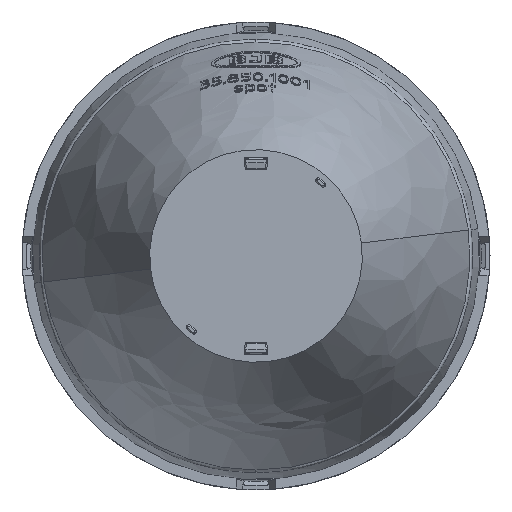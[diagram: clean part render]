
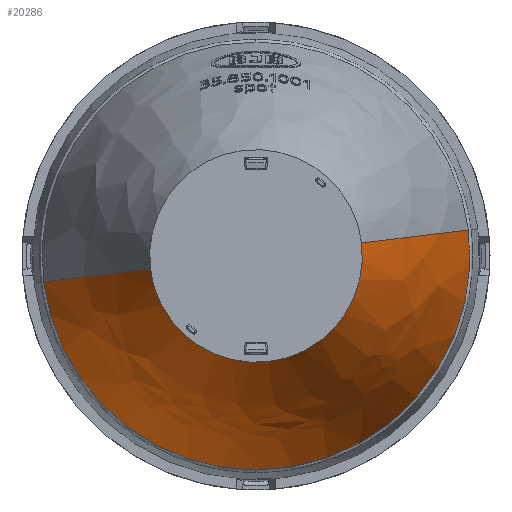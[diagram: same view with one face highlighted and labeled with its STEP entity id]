
A CAD part, front view. The second image highlights one B-rep face of the part: STEP entity #20286.
In plain terms, the highlighted free-form (B-spline) face has degree [3, 8] with [4, 15] control points.
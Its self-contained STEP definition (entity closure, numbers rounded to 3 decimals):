
#12536=CARTESIAN_POINT(' ',(0.,67.086,-50.299));
#12537=VERTEX_POINT(' ',#12536);
#12626=CARTESIAN_POINT(' ',(49.926,67.087,6.13));
#12627=VERTEX_POINT(' ',#12626);
#12641=CARTESIAN_POINT(' ',(-0.003,67.09,0.004));
#12646=DIRECTION(' ',(0.,1.,0.));
#12651=DIRECTION(' ',(0.993,0.,0.122));
#12656=AXIS2_PLACEMENT_3D(' ',#12641,#12646,#12651);
#12661=CIRCLE('',#12656,50.303);
#12666=EDGE_CURVE(' ',#12627,#12537,#12661,.T.);
#13396=CARTESIAN_POINT(' ',(-0.001,67.087,0.001));
#13401=DIRECTION(' ',(0.,1.,0.));
#13406=DIRECTION(' ',(0.,0.,-1.));
#13411=AXIS2_PLACEMENT_3D(' ',#13396,#13401,#13406);
#13416=CIRCLE('',#13411,50.3);
#13421=CARTESIAN_POINT(' ',(-49.926,67.087,-6.13));
#13422=VERTEX_POINT(' ',#13421);
#13426=EDGE_CURVE(' ',#12537,#13422,#13416,.T.);
#14311=CARTESIAN_POINT(' ',(-49.926,67.087,-6.13));
#14316=CARTESIAN_POINT(' ',(-43.649,42.912,-5.359));
#14321=CARTESIAN_POINT(' ',(-35.77,20.288,-4.392));
#14326=CARTESIAN_POINT(' ',(-24.814,0.,-3.047));
#14331=B_SPLINE_CURVE_WITH_KNOTS('',3,(#14311,#14316,#14321,#14326),.UNSPECIFIED.,.F.,.U.,(4,4),(0.,1.),.UNSPECIFIED.);
#14336=CARTESIAN_POINT(' ',(-24.814,0.,-3.047));
#14337=VERTEX_POINT(' ',#14336);
#14341=EDGE_CURVE(' ',#13422,#14337,#14331,.T.);
#14376=CARTESIAN_POINT(' ',(24.814,0.,3.047));
#14377=VERTEX_POINT(' ',#14376);
#14391=CARTESIAN_POINT(' ',(24.814,0.,3.047));
#14396=CARTESIAN_POINT(' ',(35.77,20.288,4.392));
#14401=CARTESIAN_POINT(' ',(43.649,42.912,5.359));
#14406=CARTESIAN_POINT(' ',(49.926,67.087,6.13));
#14411=B_SPLINE_CURVE_WITH_KNOTS('',3,(#14391,#14396,#14401,#14406),.UNSPECIFIED.,.F.,.U.,(4,4),(0.,1.),.UNSPECIFIED.);
#14416=EDGE_CURVE(' ',#14377,#12627,#14411,.T.);
#19916=CARTESIAN_POINT(' ',(49.926,67.088,6.13));
#19921=CARTESIAN_POINT(' ',(50.692,67.088,-0.113));
#19926=CARTESIAN_POINT(' ',(50.676,67.088,-7.337));
#19931=CARTESIAN_POINT(' ',(49.438,67.088,-15.702));
#19936=CARTESIAN_POINT(' ',(46.289,67.088,-24.788));
#19941=CARTESIAN_POINT(' ',(40.541,67.088,-34.799));
#19946=CARTESIAN_POINT(' ',(30.639,67.088,-43.311));
#19951=CARTESIAN_POINT(' ',(6.566,67.088,-53.475));
#19956=CARTESIAN_POINT(' ',(-19.252,67.088,-49.436));
#19961=CARTESIAN_POINT(' ',(-30.918,67.088,-43.573));
#19966=CARTESIAN_POINT(' ',(-38.918,67.088,-35.25));
#19971=CARTESIAN_POINT(' ',(-44.171,67.088,-27.196));
#19976=CARTESIAN_POINT(' ',(-47.396,67.088,-19.379));
#19981=CARTESIAN_POINT(' ',(-49.159,67.088,-12.373));
#19986=CARTESIAN_POINT(' ',(-49.926,67.088,-6.13));
#19991=CARTESIAN_POINT(' ',(43.649,42.912,5.359));
#19996=CARTESIAN_POINT(' ',(44.319,42.912,-0.099));
#20001=CARTESIAN_POINT(' ',(44.305,42.912,-6.415));
#20006=CARTESIAN_POINT(' ',(43.223,42.912,-13.728));
#20011=CARTESIAN_POINT(' ',(40.47,42.912,-21.672));
#20016=CARTESIAN_POINT(' ',(35.444,42.912,-30.424));
#20021=CARTESIAN_POINT(' ',(26.787,42.912,-37.865));
#20026=CARTESIAN_POINT(' ',(5.74,42.912,-46.752));
#20031=CARTESIAN_POINT(' ',(-16.831,42.912,-43.221));
#20036=CARTESIAN_POINT(' ',(-27.031,42.912,-38.095));
#20041=CARTESIAN_POINT(' ',(-34.025,42.912,-30.818));
#20046=CARTESIAN_POINT(' ',(-38.618,42.912,-23.777));
#20051=CARTESIAN_POINT(' ',(-41.437,42.912,-16.942));
#20056=CARTESIAN_POINT(' ',(-42.979,42.912,-10.817));
#20061=CARTESIAN_POINT(' ',(-43.649,42.912,-5.359));
#20066=CARTESIAN_POINT(' ',(35.77,20.289,4.392));
#20071=CARTESIAN_POINT(' ',(36.319,20.289,-0.081));
#20076=CARTESIAN_POINT(' ',(36.307,20.289,-5.257));
#20081=CARTESIAN_POINT(' ',(35.42,20.289,-11.25));
#20086=CARTESIAN_POINT(' ',(33.164,20.289,-17.76));
#20091=CARTESIAN_POINT(' ',(29.046,20.289,-24.932));
#20096=CARTESIAN_POINT(' ',(21.952,20.289,-31.03));
#20101=CARTESIAN_POINT(' ',(4.704,20.289,-38.312));
#20106=CARTESIAN_POINT(' ',(-13.793,20.289,-35.419));
#20111=CARTESIAN_POINT(' ',(-22.152,20.289,-31.218));
#20116=CARTESIAN_POINT(' ',(-27.883,20.289,-25.255));
#20121=CARTESIAN_POINT(' ',(-31.647,20.289,-19.485));
#20126=CARTESIAN_POINT(' ',(-33.957,20.289,-13.884));
#20131=CARTESIAN_POINT(' ',(-35.22,20.289,-8.865));
#20136=CARTESIAN_POINT(' ',(-35.77,20.289,-4.392));
#20141=CARTESIAN_POINT(' ',(24.814,0.,3.047));
#20146=CARTESIAN_POINT(' ',(25.195,0.,-0.056));
#20151=CARTESIAN_POINT(' ',(25.186,0.,-3.647));
#20156=CARTESIAN_POINT(' ',(24.571,0.,-7.804));
#20161=CARTESIAN_POINT(' ',(23.006,0.,-12.32));
#20166=CARTESIAN_POINT(' ',(20.149,0.,-17.295));
#20171=CARTESIAN_POINT(' ',(15.228,0.,-21.526));
#20176=CARTESIAN_POINT(' ',(3.263,0.,-26.577));
#20181=CARTESIAN_POINT(' ',(-9.568,0.,-24.57));
#20186=CARTESIAN_POINT(' ',(-15.367,0.,-21.656));
#20191=CARTESIAN_POINT(' ',(-19.342,0.,-17.52));
#20196=CARTESIAN_POINT(' ',(-21.953,0.,-13.517));
#20201=CARTESIAN_POINT(' ',(-23.556,0.,-9.631));
#20206=CARTESIAN_POINT(' ',(-24.433,0.,-6.15));
#20211=CARTESIAN_POINT(' ',(-24.814,0.,-3.047));
#20216=B_SPLINE_SURFACE_WITH_KNOTS(' ',3,8,((#19916,#19921,#19926,#19931,#19936,#19941,#19946,#19951,#19956,#19961,#19966,#19971,#19976,#19981,#19986),(#19991,#19996,#20001,#20006,#20011,#20016,#20021,#20026,#20031,#20036,#20041,#20046,#20051,#20056,#20061),(#20066,#20071,#20076,#20081,#20086,#20091,#20096,#20101,#20106,#20111,#20116,#20121,#20126,#20131,#20136),(#20141,#20146,#20151,#20156,#20161,#20166,#20171,#20176,#20181,#20186,#20191,#20196,#20201,#20206,#20211)),.UNSPECIFIED.,.F.,.F.,.U.,(4,4),(9,6,9),(0.424,0.752),(0.333,0.5,0.667),.UNSPECIFIED.);
#20221=ORIENTED_EDGE(' ',*,*,#12666,.F.);
#20226=ORIENTED_EDGE(' ',*,*,#14416,.F.);
#20231=CARTESIAN_POINT(' ',(0.,0.,0.001));
#20236=DIRECTION(' ',(0.,1.,0.));
#20241=DIRECTION(' ',(0.993,0.,0.122));
#20246=AXIS2_PLACEMENT_3D(' ',#20231,#20236,#20241);
#20251=CIRCLE('',#20246,25.);
#20256=EDGE_CURVE(' ',#14377,#14337,#20251,.T.);
#20261=ORIENTED_EDGE(' ',*,*,#20256,.T.);
#20266=ORIENTED_EDGE(' ',*,*,#14341,.F.);
#20271=ORIENTED_EDGE(' ',*,*,#13426,.F.);
#20276=EDGE_LOOP(' ',(#20221,#20226,#20261,#20266,#20271));
#20281=FACE_OUTER_BOUND(' ',#20276,.T.);
#20286=ADVANCED_FACE('',(#20281),#20216,.T.);
